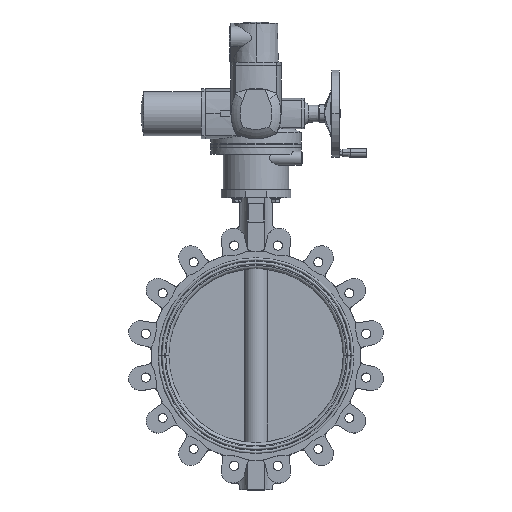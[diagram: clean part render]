
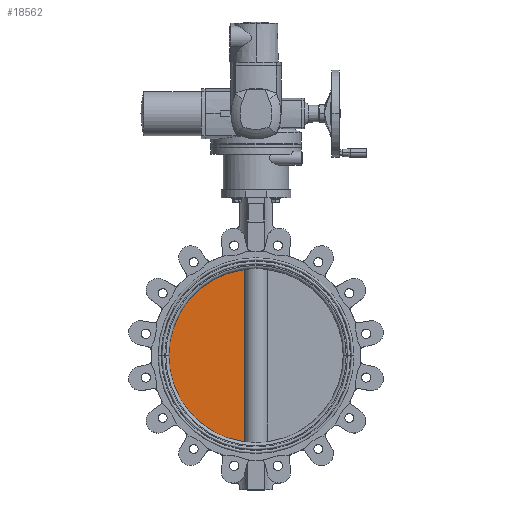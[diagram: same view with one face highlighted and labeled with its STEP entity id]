
A CAD part, top view. The second image highlights one B-rep face of the part: STEP entity #18562.
In plain terms, the highlighted planar face has unit normal (0, 0, 1).
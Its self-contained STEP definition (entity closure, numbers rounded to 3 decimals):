
#311 = CARTESIAN_POINT ( 'NONE',  ( 0., 0., 8. ) ) ;
#933 = CIRCLE ( 'NONE', #29780, 200. ) ;
#1171 = FACE_OUTER_BOUND ( 'NONE', #32970, .T. ) ;
#1930 = VERTEX_POINT ( 'NONE', #27388 ) ;
#1957 = DIRECTION ( 'NONE',  ( -1., 0., 0. ) ) ;
#2254 = LINE ( 'NONE', #34374, #32980 ) ;
#2644 = DIRECTION ( 'NONE',  ( 0., 0., -1. ) ) ;
#2977 = VERTEX_POINT ( 'NONE', #14132 ) ;
#5478 = PLANE ( 'NONE',  #9051 ) ;
#5894 = EDGE_CURVE ( 'NONE', #21233, #1930, #17261, .T. ) ;
#8107 = CARTESIAN_POINT ( 'NONE',  ( -200., 0., 8. ) ) ;
#9051 = AXIS2_PLACEMENT_3D ( 'NONE', #16352, #28805, #12688 ) ;
#10060 = DIRECTION ( 'NONE',  ( 0., -1., 0. ) ) ;
#12688 = DIRECTION ( 'NONE',  ( -1., 0., 0. ) ) ;
#14132 = CARTESIAN_POINT ( 'NONE',  ( -26.833, -198.192, 8. ) ) ;
#16352 = CARTESIAN_POINT ( 'NONE',  ( -202., 411.001, 8. ) ) ;
#17261 = CIRCLE ( 'NONE', #32589, 200. ) ;
#18562 = ADVANCED_FACE ( 'NONE', ( #1171 ), #5478, .F. ) ;
#18983 = ORIENTED_EDGE ( 'NONE', *, *, #33658, .F. ) ;
#20810 = ORIENTED_EDGE ( 'NONE', *, *, #24078, .F. ) ;
#21233 = VERTEX_POINT ( 'NONE', #8107 ) ;
#24078 = EDGE_CURVE ( 'NONE', #1930, #2977, #2254, .T. ) ;
#26264 = DIRECTION ( 'NONE',  ( 0., 0., -1. ) ) ;
#27229 = ORIENTED_EDGE ( 'NONE', *, *, #5894, .F. ) ;
#27388 = CARTESIAN_POINT ( 'NONE',  ( -26.833, 198.192, 8. ) ) ;
#28805 = DIRECTION ( 'NONE',  ( 0., 0., -1. ) ) ;
#29780 = AXIS2_PLACEMENT_3D ( 'NONE', #34977, #2644, #33357 ) ;
#32589 = AXIS2_PLACEMENT_3D ( 'NONE', #311, #26264, #1957 ) ;
#32970 = EDGE_LOOP ( 'NONE', ( #18983, #20810, #27229 ) ) ;
#32980 = VECTOR ( 'NONE', #10060, 1000. ) ;
#33357 = DIRECTION ( 'NONE',  ( -1., 0., 0. ) ) ;
#33658 = EDGE_CURVE ( 'NONE', #2977, #21233, #933, .T. ) ;
#34374 = CARTESIAN_POINT ( 'NONE',  ( -26.833, 411.001, 8. ) ) ;
#34977 = CARTESIAN_POINT ( 'NONE',  ( 0., 0., 8. ) ) ;
